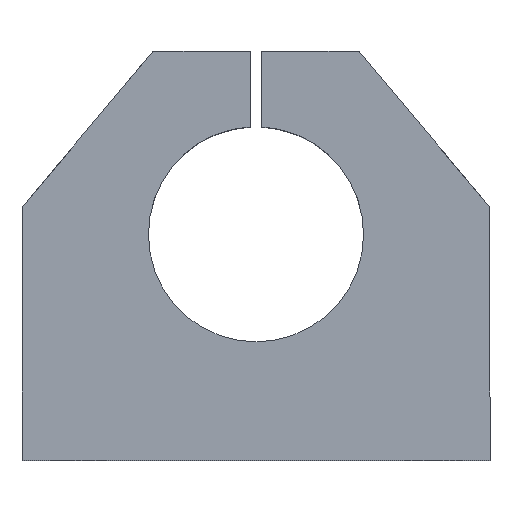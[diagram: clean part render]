
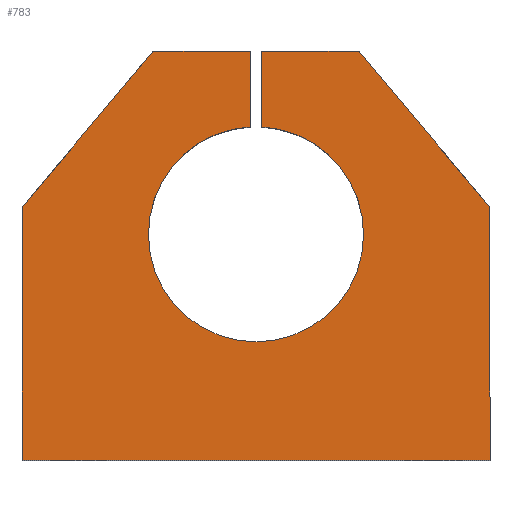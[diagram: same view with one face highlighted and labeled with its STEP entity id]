
A CAD part, top view. The second image highlights one B-rep face of the part: STEP entity #783.
In plain terms, the highlighted planar face has unit normal (0, 0, 1).
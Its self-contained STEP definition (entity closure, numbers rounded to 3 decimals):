
#29 = VECTOR ( 'NONE', #859, 1000. ) ;
#40 = CARTESIAN_POINT ( 'NONE',  ( 0., 4., 20. ) ) ;
#47 = EDGE_CURVE ( 'NONE', #892, #100, #1199, .T. ) ;
#54 = DIRECTION ( 'NONE',  ( 0., 1., 0. ) ) ;
#57 = ORIENTED_EDGE ( 'NONE', *, *, #424, .T. ) ;
#62 = DIRECTION ( 'NONE',  ( 1., 0., 0. ) ) ;
#68 = CARTESIAN_POINT ( 'NONE',  ( -43.5, 38., 20. ) ) ;
#98 = VECTOR ( 'NONE', #54, 1000. ) ;
#100 = VERTEX_POINT ( 'NONE', #1016 ) ;
#101 = CARTESIAN_POINT ( 'NONE',  ( -43.5, 38., 20. ) ) ;
#119 = DIRECTION ( 'NONE',  ( -0.643, 0.766, 0. ) ) ;
#122 = LINE ( 'NONE', #146, #552 ) ;
#126 = CARTESIAN_POINT ( 'NONE',  ( 43.5, -38., 20. ) ) ;
#146 = CARTESIAN_POINT ( 'NONE',  ( -43.5, -38., 20. ) ) ;
#147 = LINE ( 'NONE', #906, #98 ) ;
#148 = ORIENTED_EDGE ( 'NONE', *, *, #47, .T. ) ;
#156 = CARTESIAN_POINT ( 'NONE',  ( 0., 4., 20. ) ) ;
#175 = CARTESIAN_POINT ( 'NONE',  ( -29.958, 25.138, 20. ) ) ;
#180 = VERTEX_POINT ( 'NONE', #688 ) ;
#183 = VERTEX_POINT ( 'NONE', #784 ) ;
#190 = CARTESIAN_POINT ( 'NONE',  ( 1.075, 38., 20. ) ) ;
#194 = ORIENTED_EDGE ( 'NONE', *, *, #954, .T. ) ;
#212 = EDGE_LOOP ( 'NONE', ( #253, #396, #854, #1158, #373, #456, #148, #194, #57, #1078, #825, #489 ) ) ;
#242 = CARTESIAN_POINT ( 'NONE',  ( 43.5, 9., 20. ) ) ;
#247 = DIRECTION ( 'NONE',  ( -1., 0., 0. ) ) ;
#253 = ORIENTED_EDGE ( 'NONE', *, *, #960, .T. ) ;
#268 = CARTESIAN_POINT ( 'NONE',  ( -1.075, 38., 20. ) ) ;
#277 = LINE ( 'NONE', #175, #1132 ) ;
#295 = EDGE_CURVE ( 'NONE', #183, #616, #122, .T. ) ;
#317 = CARTESIAN_POINT ( 'NONE',  ( 1.075, 23.971, 20. ) ) ;
#319 = CARTESIAN_POINT ( 'NONE',  ( 0., 0., 20. ) ) ;
#323 = LINE ( 'NONE', #68, #659 ) ;
#324 = DIRECTION ( 'NONE',  ( 0., 0., 1. ) ) ;
#327 = CARTESIAN_POINT ( 'NONE',  ( -43.5, 9., 20. ) ) ;
#333 = EDGE_CURVE ( 'NONE', #1143, #180, #494, .T. ) ;
#339 = VERTEX_POINT ( 'NONE', #317 ) ;
#361 = LINE ( 'NONE', #190, #885 ) ;
#373 = ORIENTED_EDGE ( 'NONE', *, *, #333, .F. ) ;
#376 = VERTEX_POINT ( 'NONE', #242 ) ;
#380 = VERTEX_POINT ( 'NONE', #625 ) ;
#384 = VERTEX_POINT ( 'NONE', #327 ) ;
#396 = ORIENTED_EDGE ( 'NONE', *, *, #1067, .T. ) ;
#406 = DIRECTION ( 'NONE',  ( 0., 0., 1. ) ) ;
#424 = EDGE_CURVE ( 'NONE', #384, #183, #323, .T. ) ;
#428 = EDGE_CURVE ( 'NONE', #180, #380, #437, .T. ) ;
#436 = DIRECTION ( 'NONE',  ( 0., 0., 1. ) ) ;
#437 = CIRCLE ( 'NONE', #539, 20. ) ;
#455 = AXIS2_PLACEMENT_3D ( 'NONE', #40, #324, #691 ) ;
#456 = ORIENTED_EDGE ( 'NONE', *, *, #869, .F. ) ;
#488 = CARTESIAN_POINT ( 'NONE',  ( -1.075, 23.971, 20. ) ) ;
#489 = ORIENTED_EDGE ( 'NONE', *, *, #695, .T. ) ;
#494 = CIRCLE ( 'NONE', #1024, 20. ) ;
#514 = DIRECTION ( 'NONE',  ( 1., 0., 0. ) ) ;
#527 = PLANE ( 'NONE',  #726 ) ;
#535 = CARTESIAN_POINT ( 'NONE',  ( -43.5, 38., 20. ) ) ;
#539 = AXIS2_PLACEMENT_3D ( 'NONE', #156, #918, #62 ) ;
#552 = VECTOR ( 'NONE', #588, 1000. ) ;
#588 = DIRECTION ( 'NONE',  ( 1., 0., 0. ) ) ;
#616 = VERTEX_POINT ( 'NONE', #126 ) ;
#625 = CARTESIAN_POINT ( 'NONE',  ( 20., 4., 20. ) ) ;
#659 = VECTOR ( 'NONE', #731, 1000. ) ;
#665 = LINE ( 'NONE', #268, #703 ) ;
#687 = VERTEX_POINT ( 'NONE', #693 ) ;
#688 = CARTESIAN_POINT ( 'NONE',  ( -20., 4., 20. ) ) ;
#691 = DIRECTION ( 'NONE',  ( 1., 0., 0. ) ) ;
#693 = CARTESIAN_POINT ( 'NONE',  ( 1.075, 38., 20. ) ) ;
#695 = EDGE_CURVE ( 'NONE', #376, #1011, #1070, .T. ) ;
#703 = VECTOR ( 'NONE', #1035, 1000. ) ;
#726 = AXIS2_PLACEMENT_3D ( 'NONE', #319, #436, #514 ) ;
#727 = FACE_OUTER_BOUND ( 'NONE', #212, .T. ) ;
#731 = DIRECTION ( 'NONE',  ( 0., -1., 0. ) ) ;
#764 = VECTOR ( 'NONE', #119, 1000. ) ;
#783 = ADVANCED_FACE ( 'NONE', ( #727 ), #527, .T. ) ;
#784 = CARTESIAN_POINT ( 'NONE',  ( -43.5, -38., 20. ) ) ;
#825 = ORIENTED_EDGE ( 'NONE', *, *, #1213, .T. ) ;
#853 = DIRECTION ( 'NONE',  ( 0., -1., 0. ) ) ;
#854 = ORIENTED_EDGE ( 'NONE', *, *, #1141, .F. ) ;
#859 = DIRECTION ( 'NONE',  ( -1., 0., 0. ) ) ;
#869 = EDGE_CURVE ( 'NONE', #892, #1143, #665, .T. ) ;
#885 = VECTOR ( 'NONE', #853, 1000. ) ;
#892 = VERTEX_POINT ( 'NONE', #940 ) ;
#899 = CARTESIAN_POINT ( 'NONE',  ( 0., 4., 20. ) ) ;
#901 = CARTESIAN_POINT ( 'NONE',  ( 29.958, 25.138, 20. ) ) ;
#906 = CARTESIAN_POINT ( 'NONE',  ( 43.5, 38., 20. ) ) ;
#918 = DIRECTION ( 'NONE',  ( 0., 0., 1. ) ) ;
#926 = VECTOR ( 'NONE', #247, 1000. ) ;
#940 = CARTESIAN_POINT ( 'NONE',  ( -1.075, 38., 20. ) ) ;
#951 = LINE ( 'NONE', #101, #29 ) ;
#954 = EDGE_CURVE ( 'NONE', #100, #384, #277, .T. ) ;
#960 = EDGE_CURVE ( 'NONE', #1011, #687, #951, .T. ) ;
#1004 = CIRCLE ( 'NONE', #455, 20. ) ;
#1011 = VERTEX_POINT ( 'NONE', #1026 ) ;
#1016 = CARTESIAN_POINT ( 'NONE',  ( -19.166, 38., 20. ) ) ;
#1024 = AXIS2_PLACEMENT_3D ( 'NONE', #899, #406, #1066 ) ;
#1026 = CARTESIAN_POINT ( 'NONE',  ( 19.166, 38., 20. ) ) ;
#1035 = DIRECTION ( 'NONE',  ( 0., -1., 0. ) ) ;
#1042 = DIRECTION ( 'NONE',  ( -0.643, -0.766, 0. ) ) ;
#1066 = DIRECTION ( 'NONE',  ( 1., 0., 0. ) ) ;
#1067 = EDGE_CURVE ( 'NONE', #687, #339, #361, .T. ) ;
#1070 = LINE ( 'NONE', #901, #764 ) ;
#1078 = ORIENTED_EDGE ( 'NONE', *, *, #295, .T. ) ;
#1132 = VECTOR ( 'NONE', #1042, 1000. ) ;
#1141 = EDGE_CURVE ( 'NONE', #380, #339, #1004, .T. ) ;
#1143 = VERTEX_POINT ( 'NONE', #488 ) ;
#1158 = ORIENTED_EDGE ( 'NONE', *, *, #428, .F. ) ;
#1199 = LINE ( 'NONE', #535, #926 ) ;
#1213 = EDGE_CURVE ( 'NONE', #616, #376, #147, .T. ) ;
